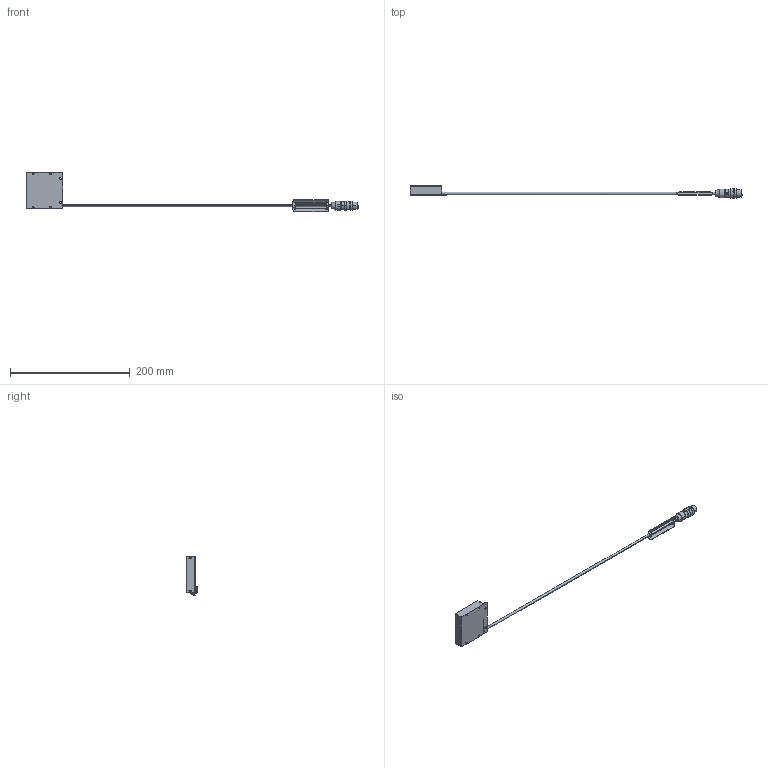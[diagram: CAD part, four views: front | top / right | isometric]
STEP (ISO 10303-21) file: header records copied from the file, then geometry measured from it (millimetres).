
FILE_DESCRIPTION (( 'STEP AP214' ), '1' );
FILE_NAME ('CV-NFL-51X51W2-M12_A22877A0100301A-002.STEP', '2024-04-16T07:25:48', ( '' ), ( '' ), 'SwSTEP 2.0', 'SolidWorks 2023', '' );
FILE_SCHEMA (( 'AUTOMOTIVE_DESIGN' ));
Length unit declared in the file: millimetre
Products named in the file (1): CV-NFL-51X51W2-M12_A22877A0100301A-002
Bounding box: 553.85 x 19.95 x 65.9 mm (x, y, z)
Volume: 57322.8 mm3; surface area: 23479.1 mm2
Topology: 2 solids, 14 shells, 708 faces, 1850 edges, 1202 vertices
Faces by surface type: plane 306, cylinder 189, bspline 149, cone 64
Entity records: 31616 total; most frequent: CARTESIAN_POINT 14926, ORIENTED_EDGE 3684, DIRECTION 3088, EDGE_CURVE 1842, VERTEX_POINT 1202, AXIS2_PLACEMENT_3D 1046, LINE 996, VECTOR 996
